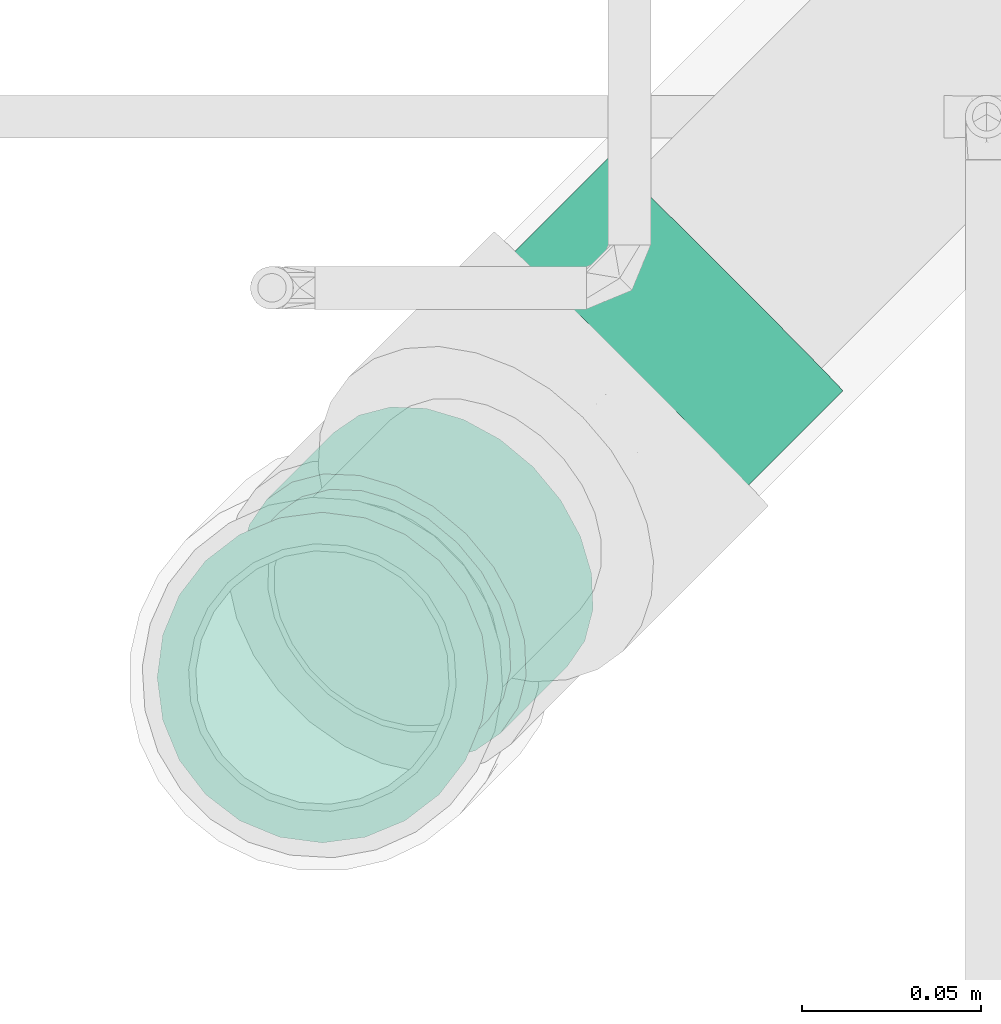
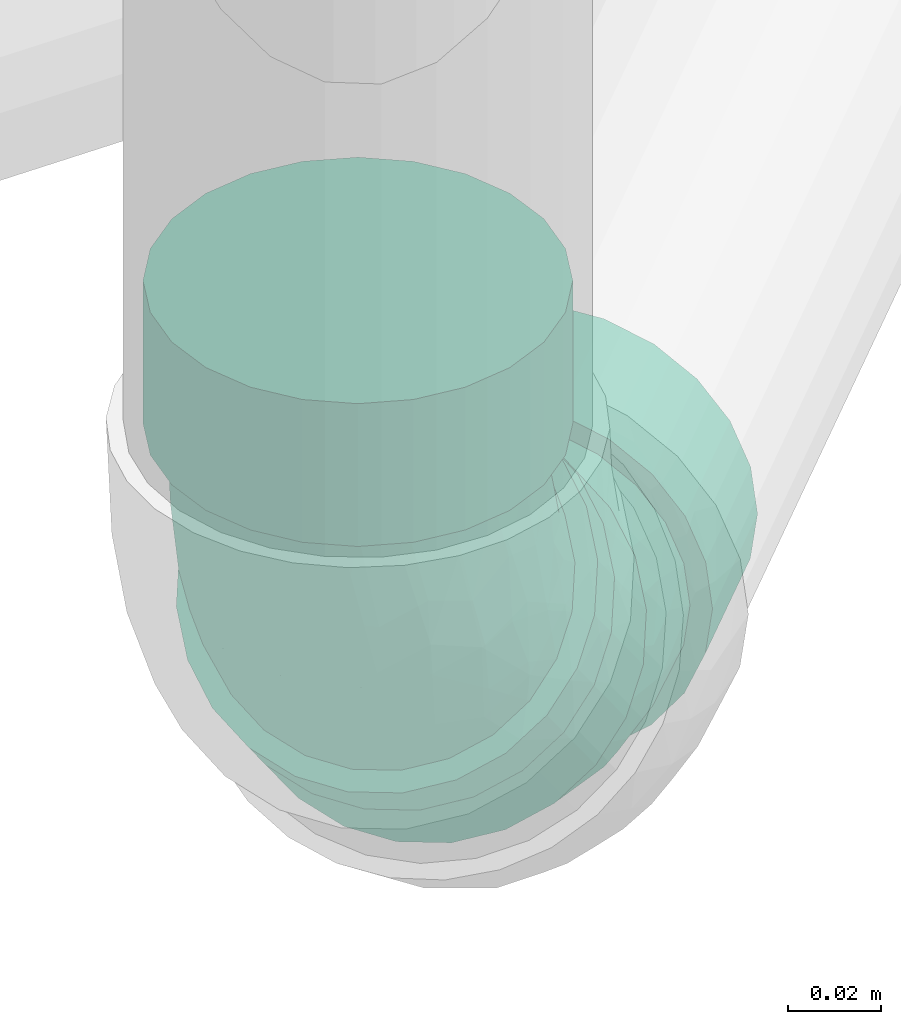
# One storey, part 39 of 108: 2 flow fittings.
"""IFC2X3 building model written with IfcOpenShell, lengths in millimetres."""

import ifcopenshell
import ifcopenshell.guid

model = None  # the IFC model being written
_history = None  # IfcOwnerHistory: only IFC2X3 demands one
_inside = {}  # id of a spatial element -> (the spatial element, [elements in it])
_under = {}  # id of a project, library or spatial element -> (it, [spatial elements below it])
_declared = {}  # id of a project -> (the project, [libraries it declares])
_typed = {}  # id of a type object -> (the type object, [elements of that type])
_made_of = {}  # id of a material, layer set ... -> (it, [elements and type objects made of it])


def new_model(schema):
    """Start an empty IFC model of exactly this schema.

    Asked for "IFC4X3", IfcOpenShell would pick the latest addendum, in which some entities
    have other attributes; the version numbers below select the first issue.
    IFC2X3 requires an IfcOwnerHistory on every rooted entity: one is made here for all.
    """
    global model, _history
    if schema == "IFC4X3":
        model = ifcopenshell.file(schema_version=(4, 3, 0, 0))
    else:
        model = ifcopenshell.file(schema=schema)
    _inside.clear()
    _under.clear()
    _declared.clear()
    _typed.clear()
    _made_of.clear()
    _history = None
    if model.schema == "IFC2X3":
        org = make("IfcOrganization", Name="unknown")
        user = make(
            "IfcPersonAndOrganization",
            ThePerson=make("IfcPerson", FamilyName="unknown"),
            TheOrganization=org,
        )
        app = make(
            "IfcApplication",
            ApplicationDeveloper=org,
            Version="unknown",
            ApplicationFullName="unknown",
            ApplicationIdentifier="unknown",
        )
        _history = make(
            "IfcOwnerHistory",
            OwningUser=user,
            OwningApplication=app,
            ChangeAction="ADDED",
            CreationDate=0,
        )
    return model


def make(cls, **values):
    """One entity of the class cls with the attributes given. An attribute that is None is left unset."""
    return model.create_entity(
        cls, **{name: value for name, value in values.items() if value is not None}
    )


def entity(cls, *values):
    """Any entity or typed value of the class cls, its attributes in the order of the schema. None: left unset."""
    e = model.create_entity(cls)
    for i, value in enumerate(values):
        if value is not None:
            e[i] = value
    return e


def rooted(cls, **values):
    """An entity with a GlobalId (a new one), such as an element, a storey or a relation."""
    return make(cls, GlobalId=ifcopenshell.guid.new(), OwnerHistory=_history, **values)


def si_unit(unit_type, name, prefix=None):
    """IfcSIUnit, for example si_unit("LENGTHUNIT", "METRE", prefix="MILLI")."""
    return make("IfcSIUnit", UnitType=unit_type, Prefix=prefix, Name=name)


def converted_unit(unit_type, name, factor, base, dimensions=None, offset=None):
    """IfcConversionBasedUnit, such as the inch: factor (a typed value) times the base unit."""
    return make(
        "IfcConversionBasedUnit"
        if offset is None
        else "IfcConversionBasedUnitWithOffset",
        ConversionOffset=offset,
        Dimensions=None
        if dimensions is None
        else entity("IfcDimensionalExponents", *dimensions),
        UnitType=unit_type,
        Name=name,
        ConversionFactor=make(
            "IfcMeasureWithUnit", ValueComponent=factor, UnitComponent=base
        ),
    )


def derived_unit(unit_type, elements):
    """IfcDerivedUnit: a product of units, each with its exponent."""
    return make(
        "IfcDerivedUnit",
        Elements=[
            make("IfcDerivedUnitElement", Unit=unit, Exponent=power)
            for unit, power in elements
        ],
        UnitType=unit_type,
    )


def assignment(units):
    """IfcUnitAssignment: the units of a project."""
    return None if units is None else make("IfcUnitAssignment", Units=units)


def point(xyz):
    """IfcCartesianPoint."""
    return None if xyz is None else make("IfcCartesianPoint", Coordinates=xyz)


def direction(xyz):
    """IfcDirection."""
    return None if xyz is None else make("IfcDirection", DirectionRatios=xyz)


def frame(location, z_axis=None, x_axis=None):
    """IfcAxis2Placement3D, a coordinate frame: its origin and axes. An axis left out is left unset."""
    return make(
        "IfcAxis2Placement3D",
        Location=point(location),
        Axis=direction(z_axis),
        RefDirection=direction(x_axis),
    )


def origin_with_axes():
    """The frame at (0, 0, 0) with the z axis (0, 0, 1) and the x axis (1, 0, 0) written out."""
    return frame((0.0, 0.0, 0.0), z_axis=(0.0, 0.0, 1.0), x_axis=(1.0, 0.0, 0.0))


def place(relative_to, where):
    """IfcLocalPlacement: puts the frame where relative to a parent placement (None: the world)."""
    return make(
        "IfcLocalPlacement", PlacementRelTo=relative_to, RelativePlacement=where
    )


def context(
    kind, dimensions, precision=None, world=None, true_north=None, identifier=None
):
    """IfcGeometricRepresentationContext, for example the 3D "Model" context."""
    return make(
        "IfcGeometricRepresentationContext",
        ContextIdentifier=identifier,
        ContextType=kind,
        CoordinateSpaceDimension=dimensions,
        Precision=precision,
        WorldCoordinateSystem=world,
        TrueNorth=true_north,
    )


def subcontext(parent, identifier, kind, view, scale=None):
    """IfcGeometricRepresentationSubContext, for example "Body" below "Model"."""
    return make(
        "IfcGeometricRepresentationSubContext",
        ContextIdentifier=identifier,
        ContextType=kind,
        ParentContext=parent,
        TargetScale=scale,
        TargetView=view,
    )


def project(units=None, contexts=None):
    """IfcProject with its units and contexts."""
    return rooted(
        "IfcProject",
        Name="project",
        RepresentationContexts=contexts,
        UnitsInContext=assignment(units),
    )


def spatial(cls, under=None, at=None, **own):
    """A site, building, storey or space (cls), placed at a placement, below another one or the project."""
    s = rooted(cls, ObjectPlacement=at, **own)
    if under is not None:
        _under.setdefault(under.id(), (under, []))[1].append(s)
    return s


def faces_of(points, faces, orient=None, outer=None):
    """IfcFace entities. A face is a list of loops; a loop is a list of indices into points, from 0.

    orient and outer hold one flag for each loop. By default every Orientation is true, the
    first loop of a face is its IfcFaceOuterBound and the others are IfcFaceBound.
    """
    made = []
    for i, loops in enumerate(faces):
        bounds = []
        for j, loop in enumerate(loops):
            is_outer = j == 0 if outer is None else outer[i][j]
            bounds.append(
                make(
                    "IfcFaceOuterBound" if is_outer else "IfcFaceBound",
                    Bound=make("IfcPolyLoop", Polygon=[points[k] for k in loop]),
                    Orientation=True if orient is None else orient[i][j],
                )
            )
        made.append(make("IfcFace", Bounds=bounds))
    return made


def open_shell(faces, orient=None, outer=None):
    """The faces of one IfcOpenShell. surface_model builds it on its shared points."""
    return ("IfcOpenShell", faces, orient, outer)


def surface_model(cls, points, shells):
    """IfcFaceBasedSurfaceModel or IfcShellBasedSurfaceModel (cls): surfaces that need not close."""
    shared = [point(p) for p in points]
    made = [make(c, CfsFaces=faces_of(shared, fs, o, b)) for c, fs, o, b in shells]
    if cls == "IfcFaceBasedSurfaceModel":
        return make(cls, FbsmFaces=made)
    return make(cls, SbsmBoundary=made)


def shape(context_of_items, identifier, shape_type, items):
    """IfcShapeRepresentation: the items that make up one representation, for example the "Body"."""
    return make(
        "IfcShapeRepresentation",
        ContextOfItems=context_of_items,
        RepresentationIdentifier=identifier,
        RepresentationType=shape_type,
        Items=items,
    )


def source(mapping_origin, context_of_items, identifier, shape_type, items):
    """IfcRepresentationMap: a shape defined once, which mapped items show again and again."""
    return make(
        "IfcRepresentationMap",
        MappingOrigin=mapping_origin,
        MappedRepresentation=shape(context_of_items, identifier, shape_type, items),
    )


def transform(
    local_origin,
    x_axis=None,
    y_axis=None,
    z_axis=None,
    scale=None,
    scale2=None,
    scale3=None,
    uniform=True,
):
    """IfcCartesianTransformationOperator3D, or its non-uniform kind. x_axis, y_axis, z_axis: its Axis1, 2, 3."""
    if uniform:
        return make(
            "IfcCartesianTransformationOperator3D",
            Axis1=direction(x_axis),
            Axis2=direction(y_axis),
            LocalOrigin=point(local_origin),
            Scale=scale,
            Axis3=direction(z_axis),
        )
    return make(
        "IfcCartesianTransformationOperator3DnonUniform",
        Axis1=direction(x_axis),
        Axis2=direction(y_axis),
        LocalOrigin=point(local_origin),
        Scale=scale,
        Axis3=direction(z_axis),
        Scale2=scale2,
        Scale3=scale3,
    )


def mapped(mapping_source, mapping_target):
    """IfcMappedItem: shows the shape of a source again, moved by a transform."""
    return make(
        "IfcMappedItem", MappingSource=mapping_source, MappingTarget=mapping_target
    )


def made_of(thing, what):
    """Note that an element or type object is made of a material, layer set ...; save() writes the relation."""
    if what is not None:
        _made_of.setdefault(what.id(), (what, []))[1].append(thing)
    return thing


def type_object(cls, material=None, **own):
    """A type object (cls), such as IfcWallType, which elements share."""
    return made_of(rooted(cls, **own), material)


def element(
    cls,
    number,
    at=None,
    inside=None,
    cuts=None,
    type_object=None,
    material=None,
    context=None,
    identifier="Body",
    shape_type=None,
    held_by="IfcProductDefinitionShape",
    body=None,
    shapes=None,
    **own,
):
    """One element of the class cls, such as IfcWall. Its Tag is "e" and its number.

    at: its placement. inside: the storey or other place that contains it. cuts: it is an
    opening in that element (IfcRelVoidsElement). A single representation is given by context,
    identifier, shape_type and body (its items); several are given by shapes. held_by: the class
    of the entity that holds the representations. save() writes the other relations.
    """
    e = rooted(cls, Tag="e%d" % number, ObjectPlacement=at, **own)
    if body is not None:
        shapes = [shape(context, identifier, shape_type, body)]
    if shapes is not None:
        e.Representation = make(held_by, Representations=shapes)
    if inside is not None:
        _inside.setdefault(inside.id(), (inside, []))[1].append(e)
    if cuts is not None:
        rooted(
            "IfcRelVoidsElement", RelatingBuildingElement=cuts, RelatedOpeningElement=e
        )
    if type_object is not None:
        _typed.setdefault(type_object.id(), (type_object, []))[1].append(e)
    return made_of(e, material)


def aggregate(whole, parts):
    """IfcRelAggregates: a whole, such as a stair, and the parts it consists of."""
    return rooted("IfcRelAggregates", RelatingObject=whole, RelatedObjects=parts)


def save(model, path):
    """Write the relations noted so far, then the file.

    IfcRelAggregates (storeys below a building ...), IfcRelContainedInSpatialStructure (elements
    in a storey), IfcRelDefinesByType, IfcRelAssociatesMaterial and IfcRelDeclares: one each for
    every whole, place, type object, material and project.
    """
    for whole, parts in _under.values():
        aggregate(whole, parts)
    for where, things in _inside.values():
        rooted(
            "IfcRelContainedInSpatialStructure",
            RelatedElements=things,
            RelatingStructure=where,
        )
    for kind, things in _typed.values():
        rooted("IfcRelDefinesByType", RelatedObjects=things, RelatingType=kind)
    for what, things in _made_of.values():
        rooted("IfcRelAssociatesMaterial", RelatedObjects=things, RelatingMaterial=what)
    for by, libraries in _declared.values():
        rooted("IfcRelDeclares", RelatingContext=by, RelatedDefinitions=libraries)
    model.write(path)


model = new_model("IFC2X3")

# Units and contexts
model_context = context("Model", 3, precision=0.01, world=frame((0.0, 4.29681676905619e-09, 0.0)), true_north=direction((4.01073788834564e-13, 1.0)))
plan_context = context("Plan", 3, precision=0.01, world=frame((0.0, 4.29681676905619e-09, 0.0)), true_north=direction((4.01073788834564e-13, 1.0)))
body_context = subcontext(model_context, "Body", "Model", "MODEL_VIEW")
ifc_project = project(units=[converted_unit("PLANEANGLEUNIT", "DEGREE", entity("IfcPositiveLengthMeasure", 0.0174532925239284), si_unit("PLANEANGLEUNIT", "RADIAN"), dimensions=[0, 0, 0, 0, 0, 0, 0]), si_unit("AREAUNIT", "SQUARE_METRE"), si_unit("LENGTHUNIT", "METRE", prefix="MILLI"), si_unit("MASSUNIT", "GRAM", prefix="KILO"), si_unit("POWERUNIT", "WATT"), si_unit("PRESSUREUNIT", "PASCAL", prefix="KILO"), si_unit("FORCEUNIT", "NEWTON", prefix="KILO"), si_unit("ELECTRICVOLTAGEUNIT", "VOLT"), si_unit("ELECTRICCURRENTUNIT", "AMPERE"), si_unit("THERMODYNAMICTEMPERATUREUNIT", "DEGREE_CELSIUS"), si_unit("TIMEUNIT", "SECOND"), si_unit("VOLUMEUNIT", "CUBIC_METRE"), derived_unit("LINEARVELOCITYUNIT", [(si_unit("LENGTHUNIT", "METRE"), 1), (si_unit("TIMEUNIT", "SECOND"), -1)]), derived_unit("VOLUMETRICFLOWRATEUNIT", [(si_unit("VOLUMEUNIT", "CUBIC_METRE"), 1), (si_unit("TIMEUNIT", "SECOND"), -1)]), derived_unit("THERMALTRANSMITTANCEUNIT", [(si_unit("POWERUNIT", "WATT"), 1), (si_unit("THERMODYNAMICTEMPERATUREUNIT", "KELVIN"), -1), (si_unit("AREAUNIT", "SQUARE_METRE"), -1)]), derived_unit("SOUNDPRESSUREUNIT", [(si_unit("PRESSUREUNIT", "PASCAL"), 1)])], contexts=[model_context, plan_context])

# Site, building, storey
site_placement = place(None, frame((0.0, -4.29681676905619e-09, 0.0), z_axis=(0.0, 0.0, 1.0), x_axis=(1.0, 0.0, 0.0)))
site = spatial("IfcSite", under=ifc_project, at=site_placement, CompositionType="ELEMENT")
building_placement = place(site_placement, frame((0.0, 4.29681676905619e-09, 0.0), z_axis=(0.0, 0.0, 1.0), x_axis=(1.0, 0.0, 0.0)))
building = spatial("IfcBuilding", under=site, at=building_placement, Name="mc-building", CompositionType="ELEMENT")
storey_placement = place(building_placement, frame((0.0, 0.0, 210200.0), z_axis=(0.0, 0.0, 1.0), x_axis=(1.0, 0.0, 0.0)))
storey = spatial("IfcBuildingStorey", under=building, at=storey_placement, Name="Nivå F - 0,7 m", CompositionType="ELEMENT", Elevation=210200.0)

# Flow fittings
pipe_fitting_type = type_object("IfcPipeFittingType", Name="magi_sewer_bend_001", PredefinedType="BEND")
shared_shape_1 = source(origin_with_axes(), body_context, "Body", "SurfaceModel", [
    surface_model("IfcShellBasedSurfaceModel", [(-71.67262, -44.67407, -11.97038), (-71.67262, -11.97038, -44.67407), (-71.67262, -23.125, -40.05367), (-71.67262, -32.70369, -32.70369), (-71.67262, 0.0, -46.25), (-71.67262, -40.05367, -23.125), (-71.67262, -46.25, 0.0), (-71.67262, 11.97038, -44.67407), (-71.67262, 32.70369, -32.70369), (-71.67262, 23.125, -40.05367), (-71.67262, 44.67407, -11.97038), (-71.67262, 40.05367, -23.125), (-71.67262, -32.70369, 32.70369), (-71.67262, -44.67407, 11.97038), (-71.67262, -40.05367, 23.125), (-71.67262, 40.05367, 23.125), (-71.67262, -23.125, 40.05367), (-71.67262, -11.97038, 44.67407), (-71.67262, 0.0, 46.25), (-71.67262, 11.97038, 44.67407), (-71.67262, 44.67407, 11.97038), (-71.67262, 46.25, 0.0), (-71.67262, 23.125, 40.05367), (-71.67262, 32.70369, 32.70369), (-34.17262, 0.0, 46.25), (-34.17262, -11.97038, 44.67407), (-34.17262, -23.125, 40.05367), (-34.17262, -32.70369, 32.70369), (-34.17262, -40.05367, 23.125), (-34.17262, -44.67407, 11.97038), (-34.17262, 40.05367, 23.125), (-34.17262, -44.67407, -11.97038), (-34.17262, 23.125, 40.05367), (-34.17262, 32.70369, 32.70369), (-34.17262, 11.97038, 44.67407), (-34.17262, 44.67407, 11.97038), (-34.17262, 44.67407, -11.97038), (-34.17262, 46.25, 0.0), (-34.17262, -32.70369, -32.70369), (-34.17262, -40.05367, -23.125), (-34.17262, -23.125, -40.05367), (-34.17262, -11.97038, -44.67407), (-34.17262, 11.97038, -44.67407), (-34.17262, 32.70369, -32.70369), (-34.17262, 40.05367, -23.125), (-34.17262, 23.125, -40.05367), (-34.17262, 0.0, -46.25), (-34.17262, -46.25, 0.0), (22.35797, 79.00242, 23.125), (17.97651, 83.38388, 0.0), (19.09086, 82.26953, 11.97038), (34.32835, 67.03204, 40.05367), (27.55519, 73.8052, 32.70369), (42.21586, 59.14453, 44.67407), (27.55519, 73.8052, -32.70369), (73.8052, 27.55519, 32.70369), (42.21586, 59.14453, -44.67407), (19.09086, 82.26953, -11.97038), (22.35797, 79.00242, -23.125), (34.32835, 67.03204, -40.05367), (50.6802, 50.6802, 46.25), (59.14453, 42.21586, 44.67407), (67.03204, 34.32835, 40.05367), (67.03204, 34.32835, -40.05367), (79.00242, 22.35797, 23.125), (82.26953, 19.09086, 11.97038), (83.38388, 17.97651, 0.0), (82.26953, 19.09086, -11.97038), (59.14453, 42.21586, -44.67407), (50.6802, 50.6802, -46.25), (73.8052, 27.55519, -32.70369), (79.00242, 22.35797, -23.125), (56.86738, -8.54, 0.0), (55.75303, -7.42565, 11.97038), (52.48592, -4.15853, 23.125), (47.28869, 1.03869, 32.70369), (40.51554, 7.81185, 40.05367), (32.62803, 15.69935, 44.67407), (40.51554, 7.81185, -40.05367), (15.69935, 32.62803, 44.67407), (55.75303, -7.42565, -11.97038), (47.28869, 1.03869, -32.70369), (52.48592, -4.15853, -23.125), (32.62803, 15.69935, -44.67407), (15.69935, 32.62803, -44.67407), (24.16369, 24.16369, -46.25), (-4.15853, 52.48592, 23.125), (7.81185, 40.51554, 40.05367), (1.03869, 47.28869, 32.70369), (-4.15853, 52.48592, -23.125), (-7.42565, 55.75303, 11.97038), (1.03869, 47.28869, -32.70369), (7.81185, 40.51554, -40.05367), (-7.42565, 55.75303, -11.97038), (-8.54, 56.86738, 0.0), (24.16369, 24.16369, 46.25), (-34.17262, 10.67629, -39.84444), (-34.17262, 0.0, -41.25), (-34.17262, 35.72355, -20.625), (-34.17262, 20.625, -35.72355), (-34.17262, -10.67629, -39.84444), (-34.17262, 29.16816, -29.16816), (-34.17262, 39.84444, -10.67629), (-34.17262, -29.16816, -29.16816), (-34.17262, -35.72355, -20.625), (-34.17262, -20.625, -35.72355), (-34.17262, -39.84444, -10.67629), (-34.17262, -41.25, 0.0), (-34.17262, -39.84444, 10.67629), (-34.17262, 41.25, 0.0), (-34.17262, 35.72355, 20.625), (-34.17262, 39.84444, 10.67629), (-34.17262, 10.67629, 39.84444), (-34.17262, 20.625, 35.72355), (-34.17262, 29.16816, 29.16816), (-34.17262, -35.72355, 20.625), (-34.17262, -29.16816, 29.16816), (-34.17262, -10.67629, 39.84444), (-34.17262, -20.625, 35.72355), (-34.17262, 0.0, 41.25), (16.61442, 31.71296, -39.84444), (38.74777, 9.57961, -35.72355), (24.16369, 24.16369, -41.25), (9.57961, 38.74777, -35.72355), (49.42405, -1.09667, 20.625), (52.33797, -4.01058, -10.67629), (-1.09667, 49.42405, -20.625), (3.53869, 44.78869, -29.16816), (44.78869, 3.53869, -29.16816), (31.71296, 16.61442, -39.84444), (49.42405, -1.09667, -20.625), (52.33797, -4.01058, 10.67629), (53.33185, -5.00446, 0.0), (-5.00446, 53.33185, 0.0), (-4.01058, 52.33797, -10.67629), (-4.01058, 52.33797, 10.67629), (-1.09667, 49.42405, 20.625), (3.53869, 44.78869, 29.16816), (9.57961, 38.74777, 35.72355), (16.61442, 31.71296, 39.84444), (24.16369, 24.16369, 41.25), (31.71296, 16.61442, 39.84444), (44.78869, 3.53869, 29.16816), (38.74777, 9.57961, 35.72355), (10.50612, -25.36402, 22.98738), (-9.12592, -23.31355, 31.83011), (-13.32012, -31.54844, 24.15346), (-13.78242, -38.56558, 0.0), (-2.14376, -37.03332, 0.0), (-8.80455, -38.00287, 7.04384), (31.72686, -12.88936, 24.15346), (-16.3448, -15.12603, 37.70038), (4.23545, -10.22528, 37.18064), (1.2244, 24.79863, 38.50101), (7.45704, 19.5259, 40.65003), (-12.31128, -3.97165, 40.70351), (-3.92344, 9.47201, 41.10505), (-20.66814, 5.71607, 40.99967), (-11.71714, 28.28769, 33.67672), (-18.19114, 34.59421, 26.03152), (22.25324, 0.8618, 37.70038), (-15.84955, 17.16525, 38.56294), (15.91914, -26.99759, 16.25694), (-7.39626, -35.6875, 14.32507), (12.80708, -30.91902, 8.96571), (-16.99315, 41.02508, 16.94728), (33.09785, -20.64633, 7.04384), (37.01562, -17.52434, 0.0), (-16.52245, 44.20054, 8.66711), (30.46482, -20.00493, 14.32507), (11.51377, 5.89701, 40.70351), (22.93817, -10.03217, 31.83011), (-18.38693, 44.38997, 0.0), (6.92373, -16.71536, 32.89459), (12.77931, -30.85198, 0.0), (27.70238, -24.67064, 0.0), (-12.31128, -3.97165, -40.70351), (-8.80455, -38.00287, -7.04384), (12.80708, -30.91902, -8.96571), (11.51377, 5.89701, -40.70351), (-18.40106, 16.66949, -38.50101), (-19.07982, 8.53397, -40.65003), (-11.59873, 37.32487, -26.03152), (22.93817, -10.03217, -31.83011), (-16.99315, 41.02508, -16.94728), (30.46482, -20.00492, -14.32507), (-19.57136, 42.93764, -8.66711), (-0.93034, 23.34499, -38.56294), (-7.39626, -35.6875, -14.32507), (-11.71715, 28.28769, -33.67672), (-13.32012, -31.54844, -24.15346), (-9.12592, -23.31355, -31.83011), (6.92373, -16.71536, -32.89459), (10.50612, -25.36402, -22.98737), (-16.3448, -15.12603, -37.70038), (22.25324, 0.8618, -37.70038), (4.23545, -10.22528, -37.18064), (33.09785, -20.64633, -7.04384), (10.57272, 18.65645, -40.99967), (7.83365, -30.34671, -16.25694), (31.72686, -12.88936, -24.15346), (-3.92344, 9.47201, -41.10505)], [open_shell([[[0, 1, 2]], [[0, 2, 3]], [[1, 0, 4]], [[0, 3, 5]], [[4, 0, 6]], [[7, 8, 9]], [[8, 7, 4]], [[8, 10, 11]], [[10, 8, 4]], [[4, 6, 10]], [[6, 12, 10]], [[13, 14, 12]], [[10, 12, 15]], [[16, 17, 18]], [[16, 18, 12]], [[19, 12, 18]], [[10, 20, 21]], [[15, 20, 10]], [[15, 22, 23]], [[22, 15, 19]], [[12, 19, 15]], [[6, 13, 12]], [[24, 25, 26]], [[24, 26, 27]], [[27, 28, 29]], [[24, 27, 30]], [[27, 31, 30]], [[32, 30, 33]], [[30, 32, 34]], [[35, 36, 37]], [[30, 34, 24]], [[35, 30, 36]], [[27, 29, 31]], [[36, 30, 31]], [[38, 31, 39]], [[40, 41, 31]], [[40, 31, 38]], [[42, 31, 41]], [[36, 43, 44]], [[36, 31, 43]], [[43, 42, 45]], [[31, 42, 43]], [[41, 46, 42]], [[31, 29, 47]], [[36, 10, 37]], [[44, 11, 36]], [[9, 43, 45]], [[44, 43, 8]], [[7, 45, 42]], [[36, 11, 10]], [[10, 21, 37]], [[7, 9, 45]], [[8, 43, 9]], [[8, 11, 44]], [[4, 7, 42]], [[42, 46, 4]], [[46, 41, 1]], [[5, 39, 31]], [[39, 3, 38]], [[0, 31, 47]], [[1, 40, 2]], [[40, 1, 41]], [[40, 38, 2]], [[38, 3, 2]], [[39, 5, 3]], [[0, 5, 31]], [[47, 6, 0]], [[46, 1, 4]], [[29, 13, 47]], [[28, 14, 29]], [[16, 27, 26]], [[28, 27, 12]], [[17, 26, 25]], [[29, 14, 13]], [[13, 6, 47]], [[17, 16, 26]], [[12, 27, 16]], [[12, 14, 28]], [[18, 17, 25]], [[25, 24, 18]], [[33, 22, 32]], [[35, 15, 30]], [[33, 30, 23]], [[20, 35, 37]], [[32, 19, 34]], [[32, 22, 19]], [[19, 18, 34]], [[33, 23, 22]], [[30, 15, 23]], [[20, 15, 35]], [[37, 21, 20]], [[34, 18, 24]], [[48, 49, 50]], [[51, 48, 52]], [[48, 53, 54]], [[53, 48, 51]], [[53, 55, 56]], [[57, 54, 58]], [[57, 49, 48]], [[54, 56, 59]], [[57, 48, 54]], [[53, 56, 54]], [[53, 60, 55]], [[61, 62, 55]], [[56, 55, 63]], [[64, 65, 66]], [[55, 64, 63]], [[66, 67, 64]], [[56, 68, 69]], [[63, 68, 56]], [[70, 67, 71]], [[67, 70, 63]], [[64, 67, 63]], [[60, 61, 55]], [[72, 73, 74]], [[72, 74, 75]], [[75, 76, 77]], [[72, 75, 78]], [[75, 79, 78]], [[80, 81, 82]], [[81, 80, 78]], [[83, 84, 85]], [[78, 80, 72]], [[83, 78, 84]], [[75, 77, 79]], [[84, 78, 79]], [[86, 79, 87]], [[84, 79, 86]], [[86, 87, 88]], [[89, 86, 90]], [[84, 91, 92]], [[91, 84, 89]], [[90, 93, 89]], [[89, 84, 86]], [[94, 93, 90]], [[79, 77, 95]], [[84, 56, 85]], [[92, 59, 84]], [[58, 91, 89]], [[92, 91, 54]], [[57, 89, 93]], [[84, 59, 56]], [[56, 69, 85]], [[57, 58, 89]], [[54, 91, 58]], [[54, 59, 92]], [[49, 57, 93]], [[93, 94, 49]], [[94, 90, 50]], [[51, 87, 79]], [[87, 52, 88]], [[53, 79, 95]], [[50, 86, 48]], [[86, 50, 90]], [[86, 88, 48]], [[88, 52, 48]], [[87, 51, 52]], [[53, 51, 79]], [[95, 60, 53]], [[94, 50, 49]], [[77, 61, 95]], [[76, 62, 77]], [[64, 75, 74]], [[76, 75, 55]], [[65, 74, 73]], [[77, 62, 61]], [[61, 60, 95]], [[65, 64, 74]], [[55, 75, 64]], [[55, 62, 76]], [[66, 65, 73]], [[73, 72, 66]], [[67, 72, 80]], [[71, 80, 82]], [[63, 78, 83]], [[68, 83, 85]], [[82, 70, 71]], [[71, 67, 80]], [[81, 63, 70]], [[81, 78, 63]], [[63, 83, 68]], [[85, 69, 68]], [[81, 70, 82]], [[72, 67, 66]], [[96, 97, 98]], [[99, 96, 98]], [[100, 98, 97]], [[101, 99, 98]], [[102, 98, 100]], [[103, 104, 105]], [[100, 105, 104]], [[104, 106, 100]], [[106, 102, 100]], [[107, 108, 106]], [[109, 102, 106]], [[110, 111, 109]], [[108, 110, 106]], [[112, 113, 114]], [[108, 114, 110]], [[114, 108, 112]], [[115, 116, 108]], [[117, 108, 116]], [[118, 117, 116]], [[117, 112, 108]], [[117, 119, 112]], [[109, 106, 110]], [[120, 121, 122]], [[123, 124, 120]], [[125, 120, 124]], [[126, 123, 127]], [[124, 123, 126]], [[121, 125, 128]], [[121, 129, 122]], [[128, 125, 130]], [[120, 125, 121]], [[125, 131, 132]], [[133, 126, 134]], [[133, 135, 136]], [[126, 136, 124]], [[137, 138, 139]], [[137, 139, 136]], [[140, 136, 139]], [[124, 141, 142]], [[131, 125, 124]], [[142, 141, 143]], [[141, 124, 140]], [[136, 140, 124]], [[126, 133, 136]], [[144, 145, 146]], [[147, 148, 149]], [[118, 116, 145]], [[124, 142, 150]], [[151, 145, 152]], [[146, 145, 116]], [[139, 153, 154]], [[117, 118, 151]], [[155, 156, 157]], [[119, 117, 155]], [[114, 158, 159]], [[143, 141, 160]], [[157, 112, 119]], [[113, 161, 158]], [[108, 147, 149]], [[138, 137, 158]], [[162, 163, 164]], [[158, 114, 113]], [[116, 115, 146]], [[110, 159, 165]], [[111, 110, 165]], [[131, 166, 167]], [[168, 109, 111]], [[169, 162, 164]], [[163, 149, 164]], [[113, 112, 161]], [[140, 154, 170]], [[142, 143, 171]], [[136, 135, 165]], [[170, 141, 140]], [[144, 146, 163]], [[142, 171, 150]], [[156, 154, 153]], [[171, 143, 160]], [[115, 163, 146]], [[166, 131, 169]], [[144, 150, 171]], [[157, 161, 112]], [[144, 162, 150]], [[111, 165, 168]], [[115, 108, 163]], [[172, 168, 133]], [[145, 173, 152]], [[135, 168, 165]], [[152, 170, 155]], [[136, 165, 159]], [[152, 160, 170]], [[136, 159, 137]], [[156, 155, 170]], [[139, 138, 153]], [[153, 158, 161]], [[151, 155, 117]], [[110, 114, 159]], [[169, 131, 124]], [[169, 124, 150]], [[173, 144, 171]], [[137, 159, 158]], [[158, 153, 138]], [[156, 153, 161]], [[145, 151, 118]], [[155, 151, 152]], [[170, 160, 141]], [[171, 160, 152]], [[108, 107, 147]], [[164, 148, 174]], [[108, 149, 163]], [[148, 164, 149]], [[166, 164, 175]], [[167, 166, 175]], [[167, 132, 131]], [[164, 166, 169]], [[170, 154, 156]], [[140, 139, 154]], [[155, 157, 119]], [[161, 157, 156]], [[144, 173, 145]], [[171, 152, 173]], [[133, 168, 135]], [[168, 172, 109]], [[150, 162, 169]], [[163, 162, 144]], [[175, 164, 174]], [[100, 97, 176]], [[148, 177, 178]], [[122, 129, 179]], [[180, 181, 96]], [[98, 182, 101]], [[121, 128, 183]], [[184, 182, 98]], [[130, 125, 185]], [[102, 186, 184]], [[123, 120, 187]], [[106, 177, 147]], [[99, 180, 96]], [[177, 106, 188]], [[127, 189, 182]], [[188, 104, 190]], [[190, 103, 191]], [[103, 105, 191]], [[192, 193, 191]], [[106, 104, 188]], [[103, 190, 104]], [[194, 105, 100]], [[195, 179, 129]], [[134, 126, 184]], [[196, 194, 176]], [[109, 172, 186]], [[193, 190, 191]], [[133, 134, 186]], [[196, 176, 179]], [[127, 123, 189]], [[184, 98, 102]], [[126, 182, 184]], [[194, 191, 105]], [[187, 189, 123]], [[181, 176, 97]], [[189, 187, 180]], [[101, 189, 99]], [[125, 167, 197]], [[198, 120, 122]], [[195, 129, 121]], [[199, 185, 178]], [[128, 200, 183]], [[196, 195, 183]], [[128, 130, 200]], [[201, 198, 179]], [[200, 193, 183]], [[201, 179, 176]], [[197, 167, 175]], [[198, 187, 120]], [[201, 181, 180]], [[177, 188, 178]], [[193, 199, 190]], [[183, 192, 196]], [[130, 185, 200]], [[134, 184, 186]], [[193, 200, 185]], [[126, 127, 182]], [[101, 182, 189]], [[189, 180, 99]], [[201, 180, 187]], [[176, 194, 100]], [[191, 194, 196]], [[183, 195, 121]], [[179, 195, 196]], [[147, 177, 148]], [[147, 107, 106]], [[199, 178, 188]], [[197, 178, 185]], [[178, 175, 174]], [[125, 132, 167]], [[178, 197, 175]], [[125, 197, 185]], [[176, 181, 201]], [[97, 96, 181]], [[179, 198, 122]], [[187, 198, 201]], [[193, 192, 183]], [[191, 196, 192]], [[109, 186, 102]], [[186, 172, 133]], [[190, 199, 188]], [[185, 199, 193]], [[148, 178, 174]]])]),
])
flow_fitting_1_placement = place(storey_placement, frame((326138.13322, 463153.0997, 3188.33334000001), z_axis=(-0.707106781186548, 0.707106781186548, 0.0), x_axis=(-0.499999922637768, -0.499999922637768, 0.707106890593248)))
element("IfcFlowFitting", 1, at=flow_fitting_1_placement, inside=storey, type_object=pipe_fitting_type, Name="magi_sewer_bend_001", context=body_context, shape_type="MappedRepresentation", body=[
    mapped(shared_shape_1, transform((0.0, 0.0, 0.0), scale=1.0)),
])
shared_shape_2 = source(origin_with_axes(), body_context, "Body", "SurfaceModel", [
    surface_model("IfcShellBasedSurfaceModel", [(-71.19035, -44.67407, -11.97038), (-71.19035, -11.97038, -44.67407), (-71.19035, -23.125, -40.05367), (-71.19035, -32.70369, -32.70369), (-71.19035, 0.0, -46.25), (-71.19035, -40.05367, -23.125), (-71.19035, -46.25, 0.0), (-71.19035, 11.97038, -44.67407), (-71.19035, 32.70369, -32.70369), (-71.19035, 23.125, -40.05367), (-71.19035, 44.67407, -11.97038), (-71.19035, 40.05367, -23.125), (-71.19035, -32.70369, 32.70369), (-71.19035, -44.67407, 11.97038), (-71.19035, -40.05367, 23.125), (-71.19035, 40.05367, 23.125), (-71.19035, -23.125, 40.05367), (-71.19035, -11.97038, 44.67407), (-71.19035, 0.0, 46.25), (-71.19035, 11.97038, 44.67407), (-71.19035, 44.67407, 11.97038), (-71.19035, 46.25, 0.0), (-71.19035, 23.125, 40.05367), (-71.19035, 32.70369, 32.70369), (-33.69036, 0.0, 46.25), (-33.69036, -11.97038, 44.67407), (-33.69036, -23.125, 40.05367), (-33.69036, -32.70369, 32.70369), (-33.69036, -40.05367, 23.125), (-33.69036, -44.67407, 11.97038), (-33.69036, 40.05367, 23.125), (-33.69036, -44.67407, -11.97038), (-33.69036, 23.125, 40.05367), (-33.69036, 32.70369, 32.70369), (-33.69036, 11.97038, 44.67407), (-33.69036, 44.67407, 11.97038), (-33.69036, 44.67407, -11.97038), (-33.69036, 46.25, 0.0), (-33.69036, -32.70369, -32.70369), (-33.69036, -40.05367, -23.125), (-33.69036, -23.125, -40.05367), (-33.69036, -11.97038, -44.67407), (-33.69036, 11.97038, -44.67407), (-33.69036, 32.70369, -32.70369), (-33.69036, 40.05367, -23.125), (-33.69036, 23.125, -40.05367), (-33.69036, 0.0, -46.25), (-33.69036, -46.25, 0.0), (22.80243, 78.43732, 23.125), (42.46076, 58.38185, -44.67407), (19.56815, 81.73693, 11.97038), (42.46076, 58.38185, 44.67407), (27.94743, 73.18838, 32.70369), (34.65252, 66.34784, 40.05367), (50.84003, 49.8333, -46.25), (19.56815, 81.73693, -11.97038), (27.94743, 73.18838, -32.70369), (22.80243, 78.43732, -23.125), (18.465, 82.86237, 0.0), (34.65252, 66.34784, -40.05367), (50.84003, 49.8333, 46.25), (59.21931, 41.28475, 44.67407), (67.02755, 33.31876, 40.05367), (73.73264, 26.47822, 32.70369), (82.11191, 17.92966, -11.97038), (78.87763, 21.22928, 23.125), (82.11191, 17.92966, 11.97038), (83.21507, 16.80423, 0.0), (67.02755, 33.31876, -40.05367), (59.21931, 41.28475, -44.67407), (73.73264, 26.47822, -32.70369), (78.87763, 21.22928, -23.125), (55.33158, -8.32036, -11.97038), (56.43474, -9.4458, 0.0), (55.33158, -8.32036, 11.97038), (52.09731, -5.02074, 23.125), (46.95231, 0.22819, 32.70369), (40.24722, 7.06874, 40.05367), (32.43898, 15.03472, 44.67407), (15.68043, 32.13183, 44.67407), (40.24722, 7.06874, -40.05367), (46.95231, 0.22819, -32.70369), (52.09731, -5.02074, -23.125), (32.43898, 15.03472, -44.67407), (15.68043, 32.13183, -44.67407), (24.0597, 23.58327, -46.25), (24.0597, 23.58327, 46.25), (-7.21218, 55.48691, 11.97038), (7.87219, 40.09781, 40.05367), (1.1671, 46.93835, 32.70369), (-3.9779, 52.18729, 23.125), (-7.21218, 55.48691, -11.97038), (1.1671, 46.93835, -32.70369), (7.87219, 40.09781, -40.05367), (-3.9779, 52.18729, -23.125), (-8.31533, 56.61235, 0.0), (-33.69036, 10.67629, -39.84444), (-33.69036, 0.0, -41.25), (-33.69036, 35.72355, -20.625), (-33.69036, 20.625, -35.72355), (-33.69036, -10.67629, -39.84444), (-33.69036, 29.16816, -29.16816), (-33.69036, 39.84444, -10.67629), (-33.69036, -29.16816, -29.16816), (-33.69036, -35.72355, -20.625), (-33.69036, -20.625, -35.72355), (-33.69036, -39.84444, -10.67629), (-33.69036, -41.25, 0.0), (-33.69036, -39.84444, 10.67629), (-33.69036, 41.25, 0.0), (-33.69036, 35.72355, 20.625), (-33.69036, 39.84444, 10.67629), (-33.69036, 10.67629, 39.84444), (-33.69036, 20.625, 35.72355), (-33.69036, 29.16816, 29.16816), (-33.69036, -35.72355, 20.625), (-33.69036, -29.16816, 29.16816), (-33.69036, -10.67629, 39.84444), (-33.69036, -20.625, 35.72355), (-33.69036, 0.0, 41.25), (16.5863, 31.20766, -39.84444), (49.06621, -1.92842, -20.625), (24.0597, 23.58327, -41.25), (3.64197, 44.41348, -29.16816), (9.62219, 38.31246, -35.72355), (-0.94681, 49.09496, -20.625), (51.95084, -4.87132, 10.67629), (38.49722, 8.85409, -35.72355), (44.47743, 2.75306, -29.16816), (31.53311, 15.95889, -39.84444), (51.95084, -4.87132, -10.67629), (52.93473, -5.87509, 0.0), (-3.83143, 52.03787, -10.67629), (-4.81533, 53.04164, 0.0), (-3.83143, 52.03787, 10.67629), (-0.94681, 49.09496, 20.625), (24.0597, 23.58327, 41.25), (3.64197, 44.41348, 29.16816), (9.62219, 38.31246, 35.72355), (16.5863, 31.20766, 39.84444), (44.47743, 2.75306, 29.16816), (49.06621, -1.92842, 20.625), (31.53311, 15.95889, 39.84444), (38.49722, 8.85409, 35.72355), (-7.14481, -35.72777, 14.35609), (7.32995, -30.55102, 16.59865), (-12.87635, -31.54537, 24.16721), (-13.29423, -38.59937, 0.0), (-2.06011, -37.13942, 0.0), (-8.51326, -38.03683, 7.07816), (-8.83557, -23.33594, 31.84843), (22.64503, -10.48028, 31.84843), (31.27732, -13.51442, 24.16721), (-16.13862, -15.14928, 37.71207), (4.23398, -10.36804, 37.20557), (1.39319, 24.64556, 38.48847), (7.35812, 19.27066, 40.63179), (-11.96589, -3.98116, 40.70749), (-3.82517, 9.36698, 41.10091), (-20.40998, 5.70175, 40.99697), (-11.51873, 28.20674, 33.65329), (-17.72979, 34.59788, 26.0191), (22.12978, 0.47831, 37.71207), (-15.44467, 17.16328, 38.55573), (27.46883, -25.08075, 0.0), (9.63843, -32.27431, 9.33183), (12.70436, -31.11008, 0.0), (-16.72343, 40.95187, 16.91808), (32.70549, -21.20441, 7.07816), (36.51356, -18.25947, 0.0), (-16.38194, 44.04857, 8.65146), (11.33216, 5.53301, 40.70749), (10.43457, -25.55188, 23.04229), (30.11187, -20.51333, 14.35609), (-18.0954, 44.31152, 0.0), (6.85392, -16.7837, 33.00514), (-11.96589, -3.98116, -40.70749), (-8.51326, -38.03683, -7.07816), (12.71291, -31.13102, -9.06926), (11.33216, 5.53301, -40.70749), (-18.24685, 16.6252, -38.48847), (-18.74422, 8.6113, -40.63179), (-11.55696, 37.11867, -26.0191), (22.64503, -10.48028, -31.84843), (-16.72344, 40.95187, -16.91808), (30.11187, -20.51333, -14.35609), (-19.135, 42.92431, -8.65146), (-0.98462, 23.0683, -38.55573), (-7.14481, -35.72777, -14.35609), (-11.51873, 28.20674, -33.65329), (-12.87635, -31.54537, -24.16721), (10.43457, -25.55188, -23.04229), (7.96341, -30.44103, -16.33607), (-8.83557, -23.33594, -31.84843), (6.85392, -16.7837, -33.00514), (-16.13862, -15.14928, -37.71207), (22.12978, 0.47831, -37.71207), (4.23398, -10.36804, -37.20557), (32.70549, -21.20441, -7.07816), (10.5844, 18.35886, -40.99697), (31.27732, -13.51442, -24.16721), (-3.82517, 9.36697, -41.10091)], [open_shell([[[0, 1, 2]], [[0, 2, 3]], [[1, 0, 4]], [[0, 3, 5]], [[4, 0, 6]], [[7, 8, 9]], [[8, 7, 4]], [[8, 10, 11]], [[10, 8, 4]], [[4, 6, 10]], [[6, 12, 10]], [[13, 14, 12]], [[10, 12, 15]], [[16, 17, 18]], [[16, 18, 12]], [[19, 12, 18]], [[10, 20, 21]], [[15, 20, 10]], [[15, 22, 23]], [[22, 15, 19]], [[12, 19, 15]], [[6, 13, 12]], [[24, 25, 26]], [[24, 26, 27]], [[27, 28, 29]], [[24, 27, 30]], [[27, 31, 30]], [[32, 30, 33]], [[30, 32, 34]], [[35, 36, 37]], [[30, 34, 24]], [[35, 30, 36]], [[27, 29, 31]], [[36, 30, 31]], [[38, 31, 39]], [[40, 41, 31]], [[40, 31, 38]], [[42, 31, 41]], [[36, 43, 44]], [[36, 31, 43]], [[43, 42, 45]], [[31, 42, 43]], [[41, 46, 42]], [[31, 29, 47]], [[36, 10, 37]], [[44, 11, 36]], [[9, 43, 45]], [[44, 43, 8]], [[7, 45, 42]], [[36, 11, 10]], [[10, 21, 37]], [[7, 9, 45]], [[8, 43, 9]], [[8, 11, 44]], [[4, 7, 42]], [[42, 46, 4]], [[46, 41, 1]], [[5, 39, 31]], [[39, 3, 38]], [[0, 31, 47]], [[1, 40, 2]], [[40, 1, 41]], [[40, 38, 2]], [[38, 3, 2]], [[39, 5, 3]], [[0, 5, 31]], [[47, 6, 0]], [[46, 1, 4]], [[29, 13, 47]], [[28, 14, 29]], [[16, 27, 26]], [[28, 27, 12]], [[17, 26, 25]], [[29, 14, 13]], [[13, 6, 47]], [[17, 16, 26]], [[12, 27, 16]], [[12, 14, 28]], [[18, 17, 25]], [[25, 24, 18]], [[33, 22, 32]], [[35, 15, 30]], [[33, 30, 23]], [[20, 35, 37]], [[32, 19, 34]], [[32, 22, 19]], [[19, 18, 34]], [[33, 23, 22]], [[30, 15, 23]], [[20, 15, 35]], [[37, 21, 20]], [[34, 18, 24]], [[48, 49, 50]], [[51, 48, 52]], [[49, 48, 51]], [[51, 52, 53]], [[54, 49, 51]], [[55, 56, 57]], [[56, 55, 58]], [[56, 49, 59]], [[56, 58, 50]], [[50, 49, 56]], [[51, 60, 54]], [[61, 62, 63]], [[60, 63, 54]], [[64, 65, 66]], [[63, 65, 64]], [[66, 67, 64]], [[54, 68, 69]], [[54, 63, 68]], [[70, 64, 71]], [[64, 70, 68]], [[63, 64, 68]], [[63, 60, 61]], [[72, 73, 74]], [[75, 72, 74]], [[76, 77, 78]], [[72, 75, 76]], [[76, 79, 80]], [[72, 81, 82]], [[81, 72, 80]], [[83, 84, 85]], [[80, 72, 76]], [[83, 80, 84]], [[76, 78, 86]], [[84, 80, 79]], [[87, 79, 88]], [[89, 90, 87]], [[89, 87, 88]], [[91, 79, 87]], [[84, 92, 93]], [[92, 84, 91]], [[92, 91, 94]], [[84, 79, 91]], [[87, 95, 91]], [[79, 76, 86]], [[84, 49, 85]], [[93, 59, 84]], [[57, 92, 94]], [[93, 92, 56]], [[55, 94, 91]], [[84, 59, 49]], [[49, 54, 85]], [[55, 57, 94]], [[56, 92, 57]], [[56, 59, 93]], [[58, 55, 91]], [[91, 95, 58]], [[95, 87, 50]], [[53, 88, 79]], [[88, 52, 89]], [[51, 79, 86]], [[50, 90, 48]], [[90, 50, 87]], [[90, 89, 48]], [[89, 52, 48]], [[88, 53, 52]], [[51, 53, 79]], [[86, 60, 51]], [[95, 50, 58]], [[78, 61, 86]], [[77, 62, 78]], [[65, 76, 75]], [[77, 76, 63]], [[66, 75, 74]], [[78, 62, 61]], [[61, 60, 86]], [[66, 65, 75]], [[63, 76, 65]], [[63, 62, 77]], [[67, 66, 74]], [[74, 73, 67]], [[81, 71, 82]], [[83, 68, 80]], [[81, 80, 70]], [[69, 83, 85]], [[82, 64, 72]], [[82, 71, 64]], [[64, 67, 72]], [[81, 70, 71]], [[80, 68, 70]], [[69, 68, 83]], [[85, 54, 69]], [[72, 67, 73]], [[96, 97, 98]], [[99, 96, 98]], [[100, 98, 97]], [[101, 99, 98]], [[102, 98, 100]], [[103, 104, 105]], [[100, 105, 104]], [[104, 106, 100]], [[106, 102, 100]], [[107, 108, 106]], [[109, 102, 106]], [[110, 111, 109]], [[108, 110, 106]], [[112, 113, 114]], [[108, 114, 110]], [[114, 108, 112]], [[115, 116, 108]], [[117, 108, 116]], [[118, 117, 116]], [[117, 112, 108]], [[117, 119, 112]], [[109, 106, 110]], [[120, 121, 122]], [[123, 120, 124]], [[121, 120, 125]], [[125, 120, 123]], [[121, 125, 126]], [[127, 121, 128]], [[127, 129, 122]], [[121, 127, 122]], [[121, 126, 130]], [[130, 126, 131]], [[125, 132, 126]], [[133, 134, 135]], [[136, 133, 135]], [[137, 138, 139]], [[135, 137, 136]], [[139, 136, 137]], [[126, 140, 141]], [[126, 133, 140]], [[140, 142, 143]], [[142, 140, 136]], [[133, 136, 140]], [[133, 126, 132]], [[144, 145, 146]], [[147, 148, 149]], [[118, 116, 150]], [[151, 152, 140]], [[153, 150, 154]], [[116, 146, 150]], [[139, 155, 156]], [[117, 118, 153]], [[157, 158, 159]], [[119, 117, 157]], [[114, 160, 161]], [[143, 142, 162]], [[159, 112, 119]], [[113, 163, 160]], [[108, 147, 149]], [[138, 137, 160]], [[164, 165, 166]], [[160, 114, 113]], [[146, 116, 115]], [[110, 161, 167]], [[111, 110, 167]], [[126, 168, 169]], [[170, 109, 111]], [[164, 168, 165]], [[165, 149, 148]], [[113, 112, 163]], [[136, 156, 171]], [[140, 143, 151]], [[135, 134, 167]], [[171, 142, 136]], [[172, 150, 146]], [[173, 141, 152]], [[158, 156, 155]], [[151, 143, 162]], [[144, 146, 115]], [[168, 126, 173]], [[151, 172, 152]], [[159, 163, 112]], [[140, 152, 141]], [[111, 167, 170]], [[115, 108, 144]], [[174, 170, 133]], [[150, 175, 154]], [[134, 170, 167]], [[154, 171, 157]], [[135, 167, 161]], [[154, 162, 171]], [[135, 161, 137]], [[158, 157, 171]], [[139, 138, 155]], [[155, 160, 163]], [[153, 157, 117]], [[110, 114, 161]], [[173, 126, 141]], [[173, 152, 172]], [[175, 172, 151]], [[137, 161, 160]], [[160, 155, 138]], [[158, 155, 163]], [[150, 153, 118]], [[157, 153, 154]], [[171, 162, 142]], [[151, 162, 154]], [[108, 107, 147]], [[165, 144, 149]], [[108, 149, 144]], [[148, 166, 165]], [[145, 144, 165]], [[145, 173, 172]], [[169, 168, 164]], [[169, 131, 126]], [[165, 168, 173]], [[171, 156, 158]], [[136, 139, 156]], [[173, 145, 165]], [[146, 145, 172]], [[157, 159, 119]], [[163, 159, 158]], [[172, 175, 150]], [[151, 154, 175]], [[133, 170, 134]], [[170, 174, 109]], [[100, 97, 176]], [[148, 177, 178]], [[122, 129, 179]], [[180, 181, 96]], [[98, 182, 101]], [[127, 128, 183]], [[184, 182, 98]], [[121, 130, 185]], [[102, 186, 184]], [[124, 120, 187]], [[106, 177, 147]], [[99, 180, 96]], [[177, 106, 188]], [[123, 189, 182]], [[190, 191, 192]], [[190, 188, 104]], [[103, 105, 193]], [[194, 191, 193]], [[106, 104, 188]], [[190, 103, 193]], [[195, 105, 100]], [[196, 179, 129]], [[132, 125, 184]], [[197, 195, 176]], [[109, 174, 186]], [[193, 191, 190]], [[133, 132, 186]], [[197, 176, 179]], [[123, 124, 189]], [[184, 98, 102]], [[125, 182, 184]], [[195, 193, 105]], [[187, 189, 124]], [[181, 176, 97]], [[189, 187, 180]], [[101, 189, 99]], [[130, 169, 198]], [[199, 120, 122]], [[196, 129, 127]], [[192, 185, 178]], [[183, 128, 200]], [[197, 196, 183]], [[200, 128, 121]], [[201, 199, 179]], [[191, 200, 185]], [[201, 179, 176]], [[198, 169, 164]], [[199, 187, 120]], [[201, 181, 180]], [[177, 188, 178]], [[103, 190, 104]], [[183, 194, 197]], [[185, 200, 121]], [[132, 184, 186]], [[191, 183, 200]], [[125, 123, 182]], [[101, 182, 189]], [[189, 180, 99]], [[201, 180, 187]], [[176, 195, 100]], [[193, 195, 197]], [[183, 196, 127]], [[179, 196, 197]], [[147, 177, 148]], [[147, 107, 106]], [[192, 178, 188]], [[198, 178, 185]], [[178, 164, 166]], [[130, 131, 169]], [[178, 198, 164]], [[130, 198, 185]], [[176, 181, 201]], [[97, 96, 181]], [[179, 199, 122]], [[187, 199, 201]], [[191, 194, 183]], [[193, 197, 194]], [[109, 186, 102]], [[186, 174, 133]], [[190, 192, 188]], [[185, 192, 191]], [[148, 178, 166]]])]),
])
flow_fitting_2_placement = place(storey_placement, frame((326200.70593, 463215.6724, 3099.84216999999), z_axis=(-0.707106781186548, 0.707106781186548, 0.0), x_axis=(-0.707071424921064, -0.707071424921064, 0.0100000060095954)))
element("IfcFlowFitting", 2, at=flow_fitting_2_placement, inside=storey, type_object=pipe_fitting_type, Name="magi_sewer_bend_001", context=body_context, shape_type="MappedRepresentation", body=[
    mapped(shared_shape_2, transform((0.0, 0.0, 0.0), scale=1.0)),
])

save(model, "model.ifc")
